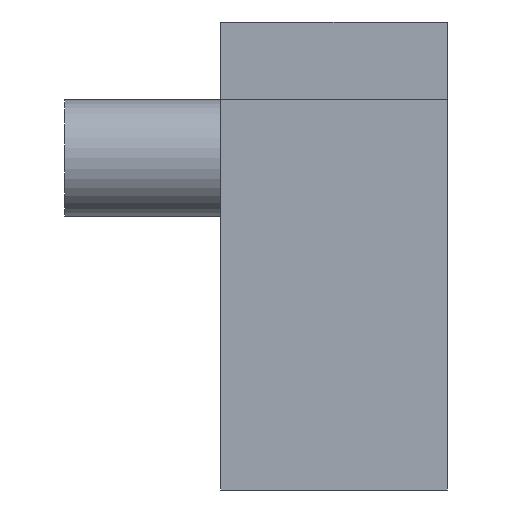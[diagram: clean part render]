
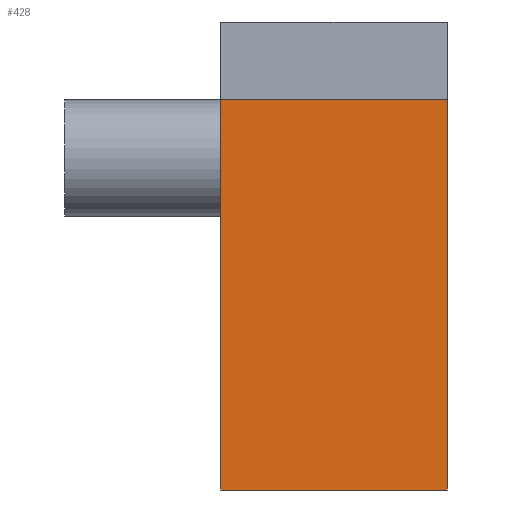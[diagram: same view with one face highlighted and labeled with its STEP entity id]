
A CAD part, left-side view. The second image highlights one B-rep face of the part: STEP entity #428.
In plain terms, the highlighted planar face has unit normal (-1, 0, 0).
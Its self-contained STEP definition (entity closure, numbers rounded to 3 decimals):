
#22=PLANE('',#485);
#39=FACE_OUTER_BOUND('',#68,.T.);
#68=EDGE_LOOP('',(#326,#327,#328,#329));
#95=LINE('',#677,#132);
#100=LINE('',#690,#137);
#107=LINE('',#715,#144);
#108=LINE('',#716,#145);
#132=VECTOR('',#550,1000.);
#137=VECTOR('',#559,1000.);
#144=VECTOR('',#580,1000.);
#145=VECTOR('',#581,1000.);
#198=VERTEX_POINT('',#674);
#199=VERTEX_POINT('',#676);
#204=VERTEX_POINT('',#687);
#205=VERTEX_POINT('',#689);
#240=EDGE_CURVE('',#199,#198,#95,.T.);
#246=EDGE_CURVE('',#204,#205,#100,.T.);
#259=EDGE_CURVE('',#199,#204,#107,.T.);
#260=EDGE_CURVE('',#198,#205,#108,.T.);
#326=ORIENTED_EDGE('',*,*,#246,.F.);
#327=ORIENTED_EDGE('',*,*,#259,.F.);
#328=ORIENTED_EDGE('',*,*,#240,.T.);
#329=ORIENTED_EDGE('',*,*,#260,.T.);
#428=ADVANCED_FACE('',(#39),#22,.F.);
#485=AXIS2_PLACEMENT_3D('',#714,#578,#579);
#550=DIRECTION('',(0.,0.,-1.));
#559=DIRECTION('',(0.,0.,-1.));
#578=DIRECTION('center_axis',(1.,0.,0.));
#579=DIRECTION('ref_axis',(0.,0.,1.));
#580=DIRECTION('',(0.,-1.,0.));
#581=DIRECTION('',(0.,-1.,0.));
#674=CARTESIAN_POINT('',(0.,2.9,0.));
#676=CARTESIAN_POINT('',(0.,2.9,5.));
#677=CARTESIAN_POINT('',(0.,2.9,0.));
#687=CARTESIAN_POINT('',(0.,0.,5.));
#689=CARTESIAN_POINT('',(0.,0.,0.));
#690=CARTESIAN_POINT('',(0.,0.,0.));
#714=CARTESIAN_POINT('Origin',(0.,2.9,0.));
#715=CARTESIAN_POINT('',(0.,2.9,5.));
#716=CARTESIAN_POINT('',(0.,2.9,0.));
